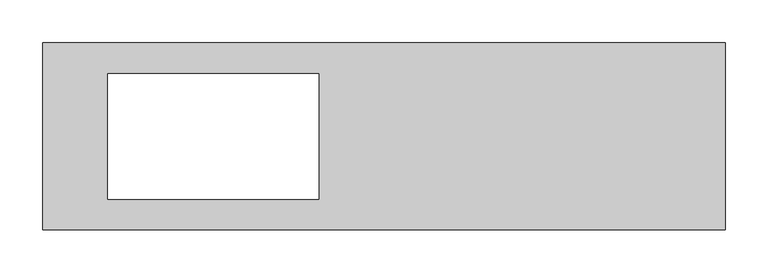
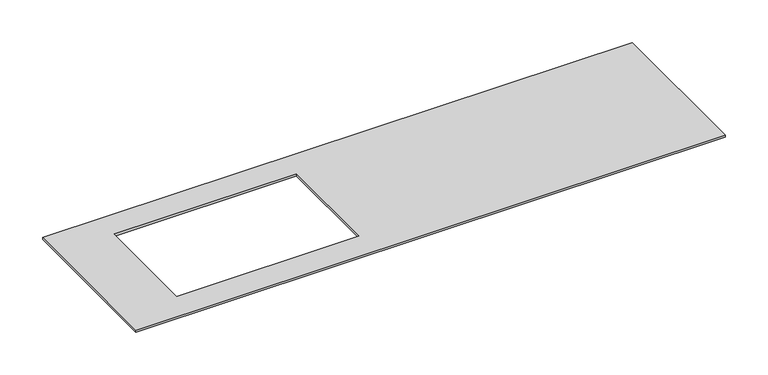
"""IFC4 building model written with IfcOpenShell, lengths in millimetres: proxy geometry, Electrical_Installation_Hager_Cover-E04-BKA : Electrical_Installation_Hager_Cover-E04-BKA."""

from ifc_helpers import new_model, si_unit, frame, origin, place, context, project, spatial, polyline, outline, extrude, source, transform, mapped, element, save


def electrical_fixtures_bcf557a4(model_context):
    return source(origin(), model_context, "Body", "SweptSolid", [
        extrude(outline(polyline([(800.0, 109.75), (800.0, -109.75), (0.0, -109.75), (0.0, 109.75), (800.0, 109.75)]), holes=[polyline([(323.5, 73.5), (76.5, 73.5), (76.5, -73.5), (323.5, -73.5), (323.5, 73.5)])]), frame((0.0, 0.0, 10.0), z_axis=(0.0, 0.0, 1.0), x_axis=(1.0, 0.0, 0.0)), (0.0, 0.0, 1.0), 3.0),
    ])


if __name__ == "__main__":
    model = new_model("IFC4")
    model_context = context("Model", 3, world=origin())
    ifc_project = project(units=[si_unit("LENGTHUNIT", "METRE", prefix="MILLI")], contexts=[model_context])
    site = spatial("IfcSite", under=ifc_project)
    building = spatial("IfcBuilding", under=site)
    placement = place(None, origin())
    electrical_fixtures_shape = electrical_fixtures_bcf557a4(model_context)
    element("IfcBuildingElementProxy", 1, Name="Electrical_Installation_Hager_Cover-E04-BKA : Electrical_Installation_Hager_Cover-E04-BKA", ObjectType="Electrical_Installation_Hager_Cover-E04-BKA : Electrical_Installation_Hager_Cover-E04-BKA", at=placement, inside=building, context=model_context, shape_type="MappedRepresentation", body=[
        mapped(electrical_fixtures_shape, transform((0.0, 0.0, 0.0), x_axis=(1.0, 0.0, 0.0), y_axis=(0.0, 1.0, 0.0), z_axis=(0.0, 0.0, 1.0))),
    ])
    save(model, "model.ifc")
